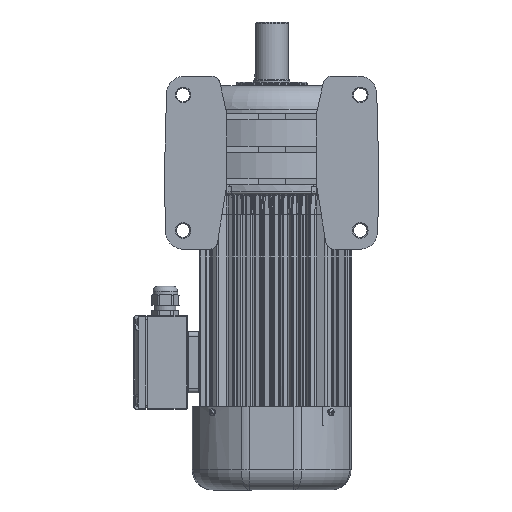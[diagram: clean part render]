
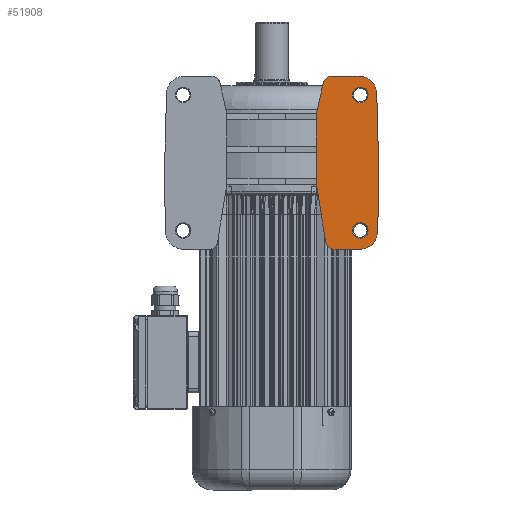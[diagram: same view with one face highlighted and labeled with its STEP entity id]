
A CAD part, front view. The second image highlights one B-rep face of the part: STEP entity #51908.
In plain terms, the highlighted planar face has unit normal (0, -1, 0).
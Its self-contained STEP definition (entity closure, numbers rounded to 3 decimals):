
#3359=LINE('',#82662,#6146);
#3464=LINE('',#85050,#6251);
#3474=LINE('',#85076,#6261);
#3478=LINE('',#85963,#6265);
#3648=LINE('',#86916,#6435);
#3651=LINE('',#86924,#6438);
#3654=LINE('',#86929,#6441);
#6146=VECTOR('',#65357,55.988);
#6251=VECTOR('',#65748,30.461);
#6261=VECTOR('',#65774,26.43);
#6265=VECTOR('',#65862,68.);
#6435=VECTOR('',#66310,24.872);
#6438=VECTOR('',#66319,50.462);
#6441=VECTOR('',#66324,82.473);
#8740=PLANE('',#56350);
#10433=FACE_BOUND('',#15037,.T.);
#10434=FACE_BOUND('',#15038,.T.);
#11726=FACE_OUTER_BOUND('',#15036,.T.);
#15036=EDGE_LOOP('',(#38376,#38377,#38378,#38379,#38380,#38381,#38382,#38383,
#38384,#38385,#38386));
#15037=EDGE_LOOP('',(#38387));
#15038=EDGE_LOOP('',(#38388));
#18404=CIRCLE('',#55977,7.5);
#18429=CIRCLE('',#56023,7.5);
#18507=CIRCLE('',#56158,8.);
#18509=CIRCLE('',#56164,8.);
#18570=CIRCLE('',#56345,17.);
#18571=CIRCLE('',#56349,17.);
#22140=VERTEX_POINT('',#82571);
#22176=VERTEX_POINT('',#82660);
#22177=VERTEX_POINT('',#82661);
#22195=VERTEX_POINT('',#82717);
#22369=VERTEX_POINT('',#85048);
#22370=VERTEX_POINT('',#85049);
#22373=VERTEX_POINT('',#85060);
#22377=VERTEX_POINT('',#85074);
#22378=VERTEX_POINT('',#85075);
#22525=VERTEX_POINT('',#86915);
#22526=VERTEX_POINT('',#86919);
#22527=VERTEX_POINT('',#86923);
#22528=VERTEX_POINT('',#86928);
#27677=EDGE_CURVE('',#22140,#22140,#18404,.T.);
#27716=EDGE_CURVE('',#22176,#22177,#3359,.T.);
#27737=EDGE_CURVE('',#22195,#22195,#18429,.T.);
#27964=EDGE_CURVE('',#22369,#22370,#3464,.T.);
#27970=EDGE_CURVE('',#22373,#22176,#18507,.T.);
#27977=EDGE_CURVE('',#22377,#22378,#3474,.T.);
#27980=EDGE_CURVE('',#22370,#22377,#18509,.T.);
#28037=EDGE_CURVE('',#22177,#22369,#3478,.T.);
#28255=EDGE_CURVE('',#22525,#22373,#3648,.T.);
#28257=EDGE_CURVE('',#22526,#22525,#18570,.T.);
#28259=EDGE_CURVE('',#22527,#22526,#3651,.T.);
#28262=EDGE_CURVE('',#22528,#22527,#3654,.T.);
#28264=EDGE_CURVE('',#22378,#22528,#18571,.T.);
#38376=ORIENTED_EDGE('',*,*,#27970,.F.);
#38377=ORIENTED_EDGE('',*,*,#28255,.F.);
#38378=ORIENTED_EDGE('',*,*,#28257,.F.);
#38379=ORIENTED_EDGE('',*,*,#28259,.F.);
#38380=ORIENTED_EDGE('',*,*,#28262,.F.);
#38381=ORIENTED_EDGE('',*,*,#28264,.F.);
#38382=ORIENTED_EDGE('',*,*,#27977,.F.);
#38383=ORIENTED_EDGE('',*,*,#27980,.F.);
#38384=ORIENTED_EDGE('',*,*,#27964,.F.);
#38385=ORIENTED_EDGE('',*,*,#28037,.F.);
#38386=ORIENTED_EDGE('',*,*,#27716,.F.);
#38387=ORIENTED_EDGE('',*,*,#27737,.F.);
#38388=ORIENTED_EDGE('',*,*,#27677,.F.);
#51908=ADVANCED_FACE('',(#11726,#10433,#10434),#8740,.F.);
#55977=AXIS2_PLACEMENT_3D('',#82572,#65269,#65270);
#56023=AXIS2_PLACEMENT_3D('',#82718,#65393,#65394);
#56158=AXIS2_PLACEMENT_3D('',#85061,#65759,#65760);
#56164=AXIS2_PLACEMENT_3D('',#85080,#65779,#65780);
#56345=AXIS2_PLACEMENT_3D('',#86920,#66314,#66315);
#56349=AXIS2_PLACEMENT_3D('',#86932,#66328,#66329);
#56350=AXIS2_PLACEMENT_3D('',#86933,#66330,#66331);
#65269=DIRECTION('center_axis',(0.,-1.,0.));
#65270=DIRECTION('ref_axis',(-1.,0.,0.));
#65357=DIRECTION('',(-0.159,0.,0.987));
#65393=DIRECTION('center_axis',(0.,-1.,0.));
#65394=DIRECTION('ref_axis',(-1.,0.,0.));
#65748=DIRECTION('',(0.217,0.,0.976));
#65759=DIRECTION('center_axis',(0.,1.,0.));
#65760=DIRECTION('ref_axis',(-0.648,0.,-0.761));
#65774=DIRECTION('',(1.,0.,0.));
#65779=DIRECTION('center_axis',(0.,1.,0.));
#65780=DIRECTION('ref_axis',(-0.626,0.,0.78));
#65862=DIRECTION('',(0.,0.,1.));
#66310=DIRECTION('',(-1.,0.,0.));
#66314=DIRECTION('center_axis',(0.,1.,0.));
#66315=DIRECTION('ref_axis',(0.698,0.,-0.716));
#66319=DIRECTION('',(-0.026,0.,-1.));
#66324=DIRECTION('',(0.026,0.,-1.));
#66328=DIRECTION('center_axis',(0.,1.,0.));
#66329=DIRECTION('ref_axis',(0.698,0.,0.716));
#66330=DIRECTION('center_axis',(0.,1.,0.));
#66331=DIRECTION('ref_axis',(0.,0.,1.));
#82571=CARTESIAN_POINT('',(91.204,-107.713,-91.));
#82572=CARTESIAN_POINT('Origin',(83.704,-107.713,-91.));
#82660=CARTESIAN_POINT('',(50.619,-107.713,-102.274));
#82661=CARTESIAN_POINT('',(41.704,-107.713,-47.));
#82662=CARTESIAN_POINT('',(50.619,-107.713,-102.274));
#82717=CARTESIAN_POINT('',(91.204,-107.713,39.));
#82718=CARTESIAN_POINT('Origin',(83.704,-107.713,39.));
#85048=CARTESIAN_POINT('',(41.704,-107.713,21.));
#85049=CARTESIAN_POINT('',(48.312,-107.713,50.735));
#85050=CARTESIAN_POINT('',(41.704,-107.713,21.));
#85060=CARTESIAN_POINT('',(58.517,-107.713,-109.));
#85061=CARTESIAN_POINT('Origin',(58.517,-107.713,-101.));
#85074=CARTESIAN_POINT('',(56.121,-107.713,57.));
#85075=CARTESIAN_POINT('',(82.551,-107.713,57.));
#85076=CARTESIAN_POINT('',(56.121,-107.713,57.));
#85080=CARTESIAN_POINT('Origin',(56.121,-107.713,49.));
#85963=CARTESIAN_POINT('',(41.704,-107.713,-47.));
#86915=CARTESIAN_POINT('',(83.389,-107.713,-109.));
#86916=CARTESIAN_POINT('',(83.389,-107.713,-109.));
#86919=CARTESIAN_POINT('',(100.383,-107.713,-92.445));
#86920=CARTESIAN_POINT('Origin',(83.389,-107.713,-92.));
#86923=CARTESIAN_POINT('',(101.704,-107.713,-42.));
#86924=CARTESIAN_POINT('',(101.704,-107.713,-42.));
#86928=CARTESIAN_POINT('',(99.545,-107.713,40.445));
#86929=CARTESIAN_POINT('',(99.545,-107.713,40.445));
#86932=CARTESIAN_POINT('Origin',(82.551,-107.713,40.));
#86933=CARTESIAN_POINT('Origin',(-0.796,-107.713,-26.));
